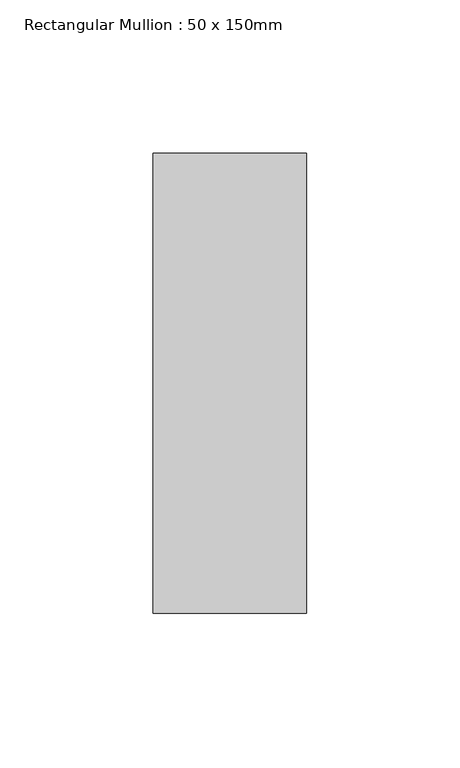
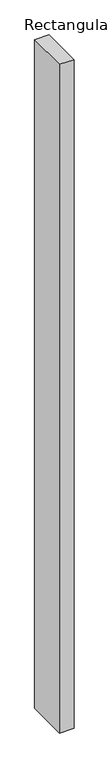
"""IFC4 building model written with IfcOpenShell, lengths in millimetres: member geometry, Rectangular Mullion : 50 x 150mm."""

from ifc_helpers import new_model, si_unit, frame, origin, place, context, project, spatial, polyline, outline, extrude, source, transform, mapped, element, save


def rectangular_mullion_50_x_150mm_98b5b9d9(model_context):
    return source(origin(), model_context, "Body", "SweptSolid", [
        extrude(outline(polyline([(25.0, 75.0), (25.0, -75.0), (-25.0, -75.0), (-25.0, 75.0), (25.0, 75.0)])), frame((0.0, 0.0, -2461.6632527), z_axis=(0.0, 0.0, 1.0), x_axis=(1.0, 0.0, 0.0)), (0.0, 0.0, 1.0), 2461.6632527),
    ])


if __name__ == "__main__":
    model = new_model("IFC4")
    model_context = context("Model", 3, world=origin())
    ifc_project = project(units=[si_unit("LENGTHUNIT", "METRE", prefix="MILLI")], contexts=[model_context])
    site = spatial("IfcSite", under=ifc_project)
    building = spatial("IfcBuilding", under=site)
    placement = place(None, origin())
    rectangular_mullion_50_x_150mm_shape = rectangular_mullion_50_x_150mm_98b5b9d9(model_context)
    element("IfcMember", 1, ObjectType="Rectangular Mullion : 50 x 150mm", at=placement, inside=building, context=model_context, shape_type="MappedRepresentation", body=[
        mapped(rectangular_mullion_50_x_150mm_shape, transform((0.0, 0.0, 0.0), x_axis=(1.0, 0.0, 0.0), y_axis=(0.0, 1.0, 0.0), z_axis=(0.0, 0.0, 1.0))),
    ])
    save(model, "model.ifc")
